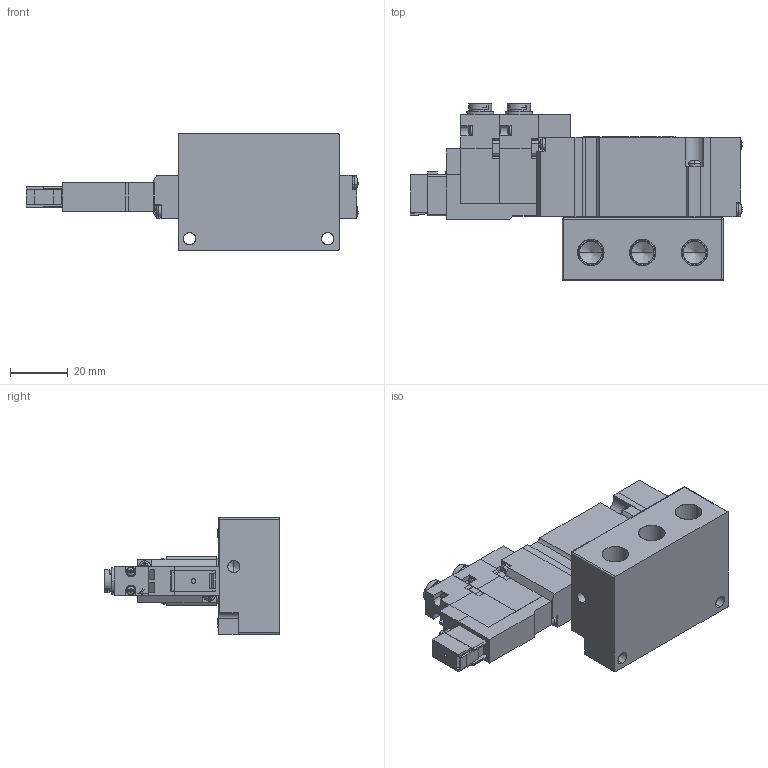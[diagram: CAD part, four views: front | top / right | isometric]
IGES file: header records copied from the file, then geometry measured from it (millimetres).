
Start section: SolidWorks IGES file using analytic representation for surfaces
Global section: file name: D:\Custom\3D繪製\ADEX\A12G\A12GD25#-#-#-E.IGS,1; native system: 5HSolidWorks 2014; preprocessor: SolidWorks 2014; author: Chieh_Lu; date: 150809.155704; units: millimetre
Bounding box: 115.3 x 61.1 x 40.5 mm (x, y, z)
Surface area: 31272.7 mm2 (no closed solid volume)
Topology: 0 solids, 0 shells, 1082 faces, 9068 edges, 9028 vertices
Faces by surface type: bspline 740, revolution 342
